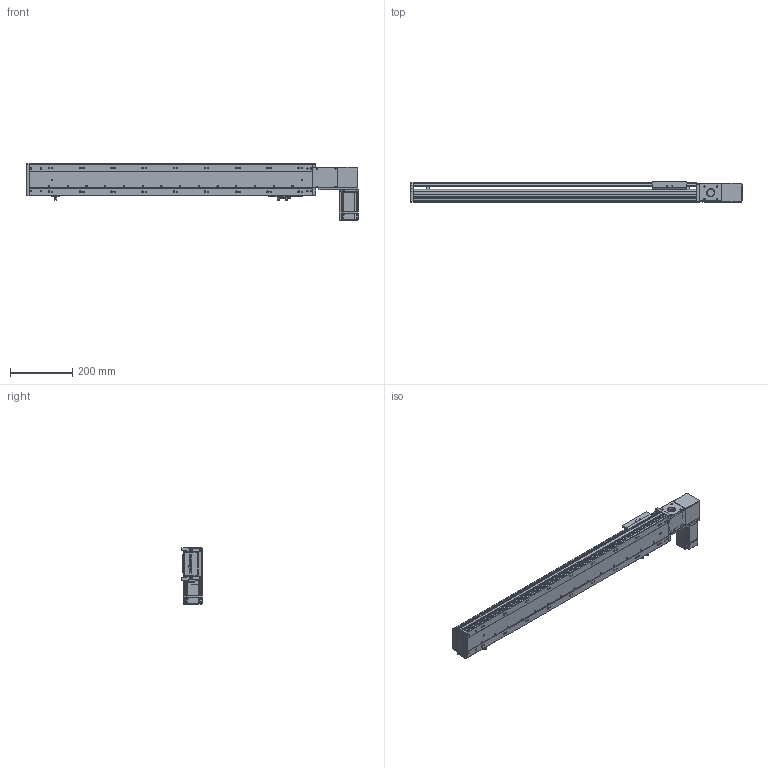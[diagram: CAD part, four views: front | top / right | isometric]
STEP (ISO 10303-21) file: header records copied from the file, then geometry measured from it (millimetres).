
FILE_DESCRIPTION (( 'STEP AP203' ), '1' );
FILE_NAME ('RY100-T-300-LK.SLDASM_700.step', '2024-04-25T05:37:06', ( '盈信电脑' ), ( '东莞市道滘镇水果街19号' ), 'SwSTEP 2.0', 'SolidWorks 2016', '' );
FILE_SCHEMA (( 'CONFIG_CONTROL_DESIGN' ));
Length unit declared in the file: millimetre
Products named in the file (13): RY100-T-300-LK.SLDASM_700; RY100-T翋肮祭謫裔啣2; RY100-T左右折电机安装板; RY80-T肮祭謫俋欶; 1; RY100-T-300-RK倰第奻裔_700; RY100-T肮祭謫翋盓傅釱; RY100-T肮祭謫臏賑輸; RY100俋离覜茼え; RY100-T-300-RK倰第菁釱_700; RY100綴裔啣; 覜茼ん672; 滅袉蝶18-10
Assembly tree (16 placements, depth 2):
  RY100-T-300-LK.SLDASM_700
    RY100-T-300-RK倰第菁釱_700
    RY100-T-300-RK倰第奻裔_700
    RY100-T肮祭謫臏賑輸
    RY100綴裔啣
    覜茼ん672  x3
    RY100俋离覜茼え
    RY100-T肮祭謫翋盓傅釱
    滅袉蝶18-10  x2
    RY100-T翋肮祭謫裔啣2  x2
    RY80-T肮祭謫俋欶
    RY100-T左右折电机安装板
    1
Bounding box: 1064 x 66 x 182.5 mm (x, y, z)
Volume: 2130003.1 mm3; surface area: 860792.7 mm2
Topology: 16 solids, 16 shells, 2184 faces, 6109 edges, 3971 vertices
Faces by surface type: plane 1182, cylinder 789, cone 135, bspline 78
Entity records: 70067 total; most frequent: CARTESIAN_POINT 17241, ORIENTED_EDGE 10954, DIRECTION 10349, EDGE_CURVE 5477, VERTEX_POINT 3607, VECTOR 3529, LINE 3529, AXIS2_PLACEMENT_3D 3410
